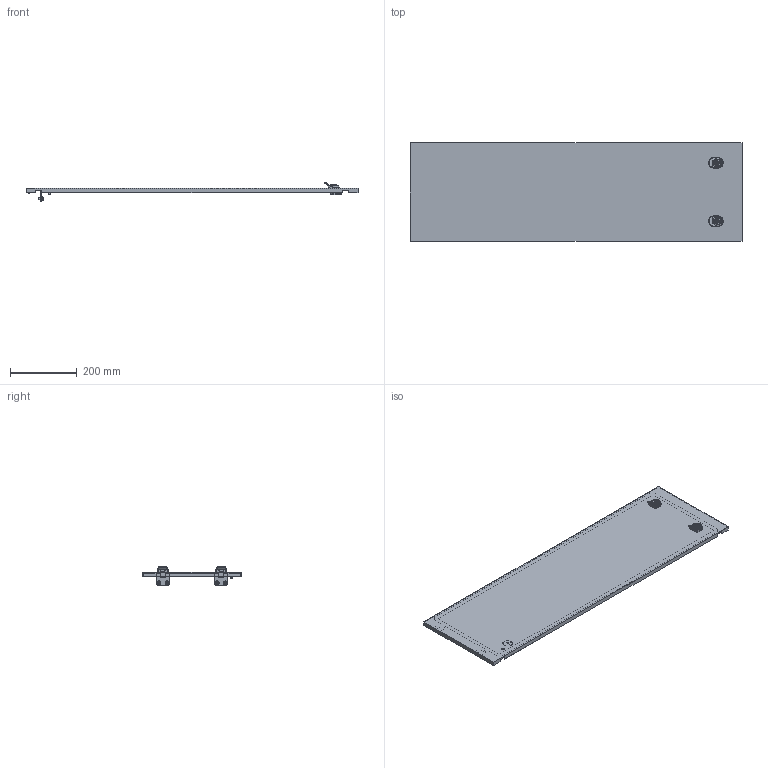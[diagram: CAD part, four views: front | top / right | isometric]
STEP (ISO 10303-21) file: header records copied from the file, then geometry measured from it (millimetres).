
FILE_DESCRIPTION (( 'STEP AP214' ), '1' );
FILE_NAME ('FO-00-ESD-030-100 Äâåðü ñåêöèîííàÿ âíåøíÿÿ 300õ1000 ìì.STEP', '2025-08-20T06:04:14', ( '' ), ( '' ), 'SwSTEP 2.0', 'SolidWorks 2023', '' );
FILE_SCHEMA (( 'AUTOMOTIVE_DESIGN' ));
Length unit declared in the file: millimetre
Products named in the file (4): Дверь секционная внешняя 300х1000.STEP; FO-00-ESD-030-100 Дверь секционная внешняя 300х1000 мм; Петля_1.STEP; FO-00-ESD-030-100 Дверь секционная внешняя 300х1000 мм.STEP
Assembly tree (4 placements, depth 3):
  FO-00-ESD-030-100 Дверь секционная внешняя 300х1000 мм
    FO-00-ESD-030-100 Дверь секционная внешняя 300х1000 мм.STEP
      Дверь секционная внешняя 300х1000.STEP
      Петля_1.STEP  x2
Bounding box: 995 x 296 x 57.25 mm (x, y, z)
Volume: 779408.5 mm3; surface area: 688544.5 mm2
Topology: 7 solids, 16 shells, 703 faces, 1803 edges, 1166 vertices
Faces by surface type: plane 343, cylinder 268, torus 34, bspline 30, cone 28
Entity records: 20644 total; most frequent: CARTESIAN_POINT 5770, ORIENTED_EDGE 3096, DIRECTION 3062, EDGE_CURVE 1548, AXIS2_PLACEMENT_3D 1050, VERTEX_POINT 1004, LINE 962, VECTOR 962
